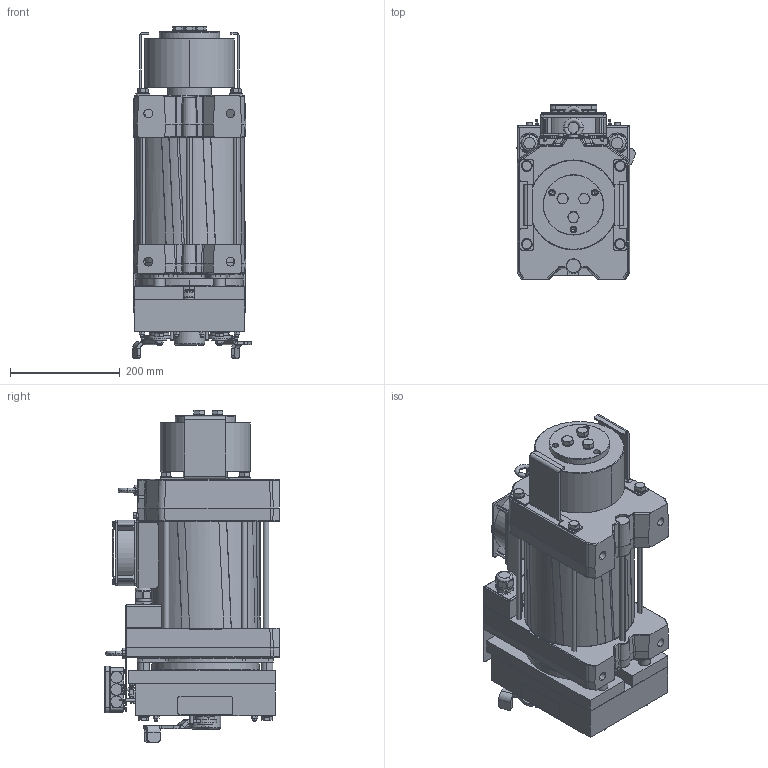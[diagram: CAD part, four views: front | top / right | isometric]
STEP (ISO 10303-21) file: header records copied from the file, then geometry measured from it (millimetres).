
FILE_DESCRIPTION((''),'2;1');
FILE_NAME('00363793_ASM','2020-06-05T',('furlanis'),('Sicor spa'),'CREO PARAMETRIC BY PTC INC, 2017170','CREO PARAMETRIC BY PTC INC, 2017170','');
FILE_SCHEMA(('CONFIG_CONTROL_DESIGN'));
Products named in the file (7): SW07; 160_90; 160; 00073486; GROWER_M12_GRO0002; TEM12X60_VIT0132; 00363793_ASM
Assembly tree (11 placements, depth 2):
  00363793_ASM
    SW07
    160_90
    160  x2
    00073486
    GROWER_M12_GRO0002  x3
    TEM12X60_VIT0132  x3
Bounding box: 215.92 x 318.5 x 605.38 mm (x, y, z)
Volume: 1688039.6 mm3; surface area: 1731504.2 mm2
Topology: 10 solids, 315 shells, 4913 faces, 14864 edges, 9971 vertices
Faces by surface type: cylinder 1582, plane 1344, bspline 1031, torus 510, cone 400, sphere 44, revolution 2
Entity records: 268805 total; most frequent: CARTESIAN_POINT 151506, ORIENTED_EDGE 23716, DIRECTION 22050, EDGE_CURVE 14540, VERTEX_POINT 9803, AXIS2_PLACEMENT_3D 8214, VECTOR 5620, LINE 5620
